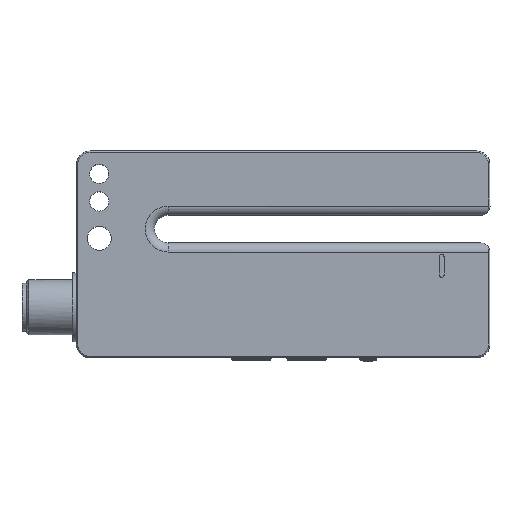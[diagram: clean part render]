
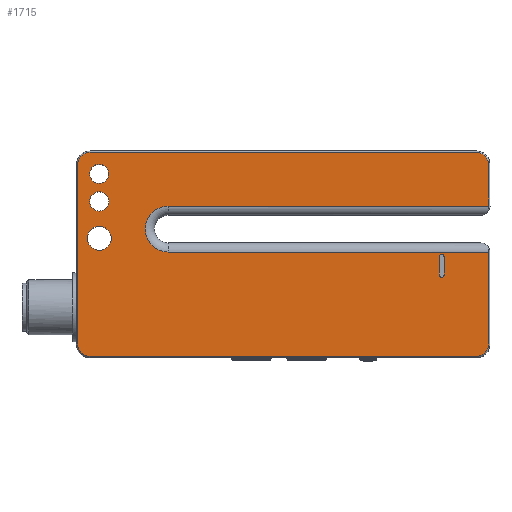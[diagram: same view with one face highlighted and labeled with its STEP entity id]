
A CAD part, top view. The second image highlights one B-rep face of the part: STEP entity #1715.
In plain terms, the highlighted planar face has unit normal (0, 0, 1).
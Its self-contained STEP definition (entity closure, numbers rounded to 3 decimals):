
#1715 = ADVANCED_FACE( '', ( #3573, #3574, #3575, #3576, #3577 ), #3578, .T. );
#3573 = FACE_BOUND( '', #5704, .T. );
#3574 = FACE_BOUND( '', #5705, .T. );
#3575 = FACE_BOUND( '', #5706, .T. );
#3576 = FACE_OUTER_BOUND( '', #5707, .T. );
#3577 = FACE_BOUND( '', #5708, .T. );
#3578 = PLANE( '', #5709 );
#5704 = EDGE_LOOP( '', ( #10418 ) );
#5705 = EDGE_LOOP( '', ( #10419 ) );
#5706 = EDGE_LOOP( '', ( #10420 ) );
#5707 = EDGE_LOOP( '', ( #10421, #10422, #10423, #10424, #10425, #10426, #10427, #10428, #10429, #10430, #10431, #10432 ) );
#5708 = EDGE_LOOP( '', ( #10433, #10434, #10435, #10436 ) );
#5709 = AXIS2_PLACEMENT_3D( '', #10437, #10438, #10439 );
#10418 = ORIENTED_EDGE( '', *, *, #11843, .T. );
#10419 = ORIENTED_EDGE( '', *, *, #11901, .T. );
#10420 = ORIENTED_EDGE( '', *, *, #12594, .T. );
#10421 = ORIENTED_EDGE( '', *, *, #12604, .F. );
#10422 = ORIENTED_EDGE( '', *, *, #12082, .F. );
#10423 = ORIENTED_EDGE( '', *, *, #12363, .F. );
#10424 = ORIENTED_EDGE( '', *, *, #11402, .F. );
#10425 = ORIENTED_EDGE( '', *, *, #12164, .F. );
#10426 = ORIENTED_EDGE( '', *, *, #11952, .F. );
#10427 = ORIENTED_EDGE( '', *, *, #12416, .F. );
#10428 = ORIENTED_EDGE( '', *, *, #10806, .F. );
#10429 = ORIENTED_EDGE( '', *, *, #12233, .F. );
#10430 = ORIENTED_EDGE( '', *, *, #12390, .F. );
#10431 = ORIENTED_EDGE( '', *, *, #11392, .F. );
#10432 = ORIENTED_EDGE( '', *, *, #11899, .F. );
#10433 = ORIENTED_EDGE( '', *, *, #10927, .T. );
#10434 = ORIENTED_EDGE( '', *, *, #11987, .T. );
#10435 = ORIENTED_EDGE( '', *, *, #11451, .T. );
#10436 = ORIENTED_EDGE( '', *, *, #12248, .T. );
#10437 = CARTESIAN_POINT( '', ( -32.214, -3.613, 9. ) );
#10438 = DIRECTION( '', ( 0., 0., 1. ) );
#10439 = DIRECTION( '', ( 1., 0., 0. ) );
#10806 = EDGE_CURVE( '', #12751, #12746, #12753, .T. );
#10927 = EDGE_CURVE( '', #12968, #12969, #12970, .T. );
#11392 = EDGE_CURVE( '', #13743, #13745, #13746, .T. );
#11402 = EDGE_CURVE( '', #13760, #13755, #13762, .T. );
#11451 = EDGE_CURVE( '', #13837, #13838, #13839, .T. );
#11843 = EDGE_CURVE( '', #14416, #14416, #14417, .F. );
#11899 = EDGE_CURVE( '', #14490, #13743, #14492, .T. );
#11901 = EDGE_CURVE( '', #14494, #14494, #14495, .F. );
#11952 = EDGE_CURVE( '', #14559, #14557, #14561, .T. );
#11987 = EDGE_CURVE( '', #12969, #13837, #14607, .T. );
#12082 = EDGE_CURVE( '', #14735, #14733, #14737, .T. );
#12164 = EDGE_CURVE( '', #14557, #13760, #14849, .T. );
#12233 = EDGE_CURVE( '', #14935, #12751, #14937, .T. );
#12248 = EDGE_CURVE( '', #13838, #12968, #14955, .T. );
#12363 = EDGE_CURVE( '', #13755, #14735, #15086, .T. );
#12390 = EDGE_CURVE( '', #13745, #14935, #15117, .F. );
#12416 = EDGE_CURVE( '', #12746, #14559, #15146, .T. );
#12594 = EDGE_CURVE( '', #15341, #15341, #15342, .F. );
#12604 = EDGE_CURVE( '', #14733, #14490, #15352, .T. );
#12746 = VERTEX_POINT( '', #15525 );
#12751 = VERTEX_POINT( '', #15531 );
#12753 = CIRCLE( '', #15534, 2.7 );
#12968 = VERTEX_POINT( '', #15829 );
#12969 = VERTEX_POINT( '', #15830 );
#12970 = CIRCLE( '', #15831, 0.5 );
#13743 = VERTEX_POINT( '', #16985 );
#13745 = VERTEX_POINT( '', #16987 );
#13746 = CIRCLE( '', #16988, 5. );
#13755 = VERTEX_POINT( '', #16999 );
#13760 = VERTEX_POINT( '', #17005 );
#13762 = CIRCLE( '', #17008, 2.7 );
#13837 = VERTEX_POINT( '', #17137 );
#13838 = VERTEX_POINT( '', #17138 );
#13839 = CIRCLE( '', #17139, 0.5 );
#14416 = VERTEX_POINT( '', #18105 );
#14417 = CIRCLE( '', #18106, 2.6 );
#14490 = VERTEX_POINT( '', #18221 );
#14492 = LINE( '', #18223, #18224 );
#14494 = VERTEX_POINT( '', #18226 );
#14495 = CIRCLE( '', #18227, 2.1 );
#14557 = VERTEX_POINT( '', #18337 );
#14559 = VERTEX_POINT( '', #18340 );
#14561 = CIRCLE( '', #18343, 2.7 );
#14607 = LINE( '', #18408, #18409 );
#14733 = VERTEX_POINT( '', #18586 );
#14735 = VERTEX_POINT( '', #18589 );
#14737 = CIRCLE( '', #18592, 2.7 );
#14849 = LINE( '', #18777, #18778 );
#14935 = VERTEX_POINT( '', #18907 );
#14937 = LINE( '', #18909, #18910 );
#14955 = LINE( '', #18932, #18933 );
#15086 = LINE( '', #19151, #19152 );
#15117 = LINE( '', #19195, #19196 );
#15146 = LINE( '', #19248, #19249 );
#15341 = VERTEX_POINT( '', #19497 );
#15342 = CIRCLE( '', #19498, 2.067 );
#15352 = LINE( '', #19511, #19512 );
#15525 = CARTESIAN_POINT( '', ( 7.5, -27.7, 9. ) );
#15531 = CARTESIAN_POINT( '', ( 10.2, -25., 9. ) );
#15534 = AXIS2_PLACEMENT_3D( '', #19627, #19628, #19629 );
#15829 = CARTESIAN_POINT( '', ( 0.5, -10., 9. ) );
#15830 = CARTESIAN_POINT( '', ( -0.5, -10., 9. ) );
#15831 = AXIS2_PLACEMENT_3D( '', #19778, #19779, #19780 );
#16985 = CARTESIAN_POINT( '', ( -59.5, 5., 9. ) );
#16987 = CARTESIAN_POINT( '', ( -59.5, -5., 9. ) );
#16988 = AXIS2_PLACEMENT_3D( '', #20368, #20369, #20370 );
#16999 = CARTESIAN_POINT( '', ( -76.5, 16.7, 9. ) );
#17005 = CARTESIAN_POINT( '', ( -79.2, 14., 9. ) );
#17008 = AXIS2_PLACEMENT_3D( '', #20384, #20385, #20386 );
#17137 = CARTESIAN_POINT( '', ( -0.5, -6., 9. ) );
#17138 = CARTESIAN_POINT( '', ( 0.5, -6., 9. ) );
#17139 = AXIS2_PLACEMENT_3D( '', #20440, #20441, #20442 );
#18105 = CARTESIAN_POINT( '', ( -74.5, -4.6, 9. ) );
#18106 = AXIS2_PLACEMENT_3D( '', #20896, #20897, #20898 );
#18221 = CARTESIAN_POINT( '', ( 10.2, 5., 9. ) );
#18223 = CARTESIAN_POINT( '', ( -32.214, 5., 9. ) );
#18224 = VECTOR( '', #20956, 1000. );
#18226 = CARTESIAN_POINT( '', ( -74.5, 3.9, 9. ) );
#18227 = AXIS2_PLACEMENT_3D( '', #20957, #20958, #20959 );
#18337 = CARTESIAN_POINT( '', ( -79.2, -25., 9. ) );
#18340 = CARTESIAN_POINT( '', ( -76.5, -27.7, 9. ) );
#18343 = AXIS2_PLACEMENT_3D( '', #21006, #21007, #21008 );
#18408 = CARTESIAN_POINT( '', ( -0.5, -6.806, 9. ) );
#18409 = VECTOR( '', #21049, 1000. );
#18586 = CARTESIAN_POINT( '', ( 10.2, 14., 9. ) );
#18589 = CARTESIAN_POINT( '', ( 7.5, 16.7, 9. ) );
#18592 = AXIS2_PLACEMENT_3D( '', #21139, #21140, #21141 );
#18777 = CARTESIAN_POINT( '', ( -79.2, 6.694, 9. ) );
#18778 = VECTOR( '', #21235, 1000. );
#18907 = CARTESIAN_POINT( '', ( 10.2, -5., 9. ) );
#18909 = CARTESIAN_POINT( '', ( 10.2, -0.306, 9. ) );
#18910 = VECTOR( '', #21294, 1000. );
#18932 = CARTESIAN_POINT( '', ( 0.5, -3.613, 9. ) );
#18933 = VECTOR( '', #21311, 1000. );
#19151 = CARTESIAN_POINT( '', ( -10.857, 16.7, 9. ) );
#19152 = VECTOR( '', #21416, 1000. );
#19195 = CARTESIAN_POINT( '', ( 10.5, -5., 9. ) );
#19196 = VECTOR( '', #21441, 1000. );
#19248 = CARTESIAN_POINT( '', ( -55.857, -27.7, 9. ) );
#19249 = VECTOR( '', #21453, 1000. );
#19497 = CARTESIAN_POINT( '', ( -74.5, 9.933, 9. ) );
#19498 = AXIS2_PLACEMENT_3D( '', #21590, #21591, #21592 );
#19511 = CARTESIAN_POINT( '', ( 10.2, -0.306, 9. ) );
#19512 = VECTOR( '', #21595, 1000. );
#19627 = CARTESIAN_POINT( '', ( 7.5, -25., 9. ) );
#19628 = DIRECTION( '', ( 0., 0., -1. ) );
#19629 = DIRECTION( '', ( 0.707, -0.707, 0. ) );
#19778 = CARTESIAN_POINT( '', ( 0., -10., 9. ) );
#19779 = DIRECTION( '', ( 0., 0., -1. ) );
#19780 = DIRECTION( '', ( 0., -1., 0. ) );
#20368 = CARTESIAN_POINT( '', ( -59.5, 0., 9. ) );
#20369 = DIRECTION( '', ( 0., 0., 1. ) );
#20370 = DIRECTION( '', ( 0., -1., 0. ) );
#20384 = CARTESIAN_POINT( '', ( -76.5, 14., 9. ) );
#20385 = DIRECTION( '', ( 0., 0., -1. ) );
#20386 = DIRECTION( '', ( -0.707, 0.707, 0. ) );
#20440 = CARTESIAN_POINT( '', ( 0., -6., 9. ) );
#20441 = DIRECTION( '', ( 0., 0., -1. ) );
#20442 = DIRECTION( '', ( 1., 0., 0. ) );
#20896 = CARTESIAN_POINT( '', ( -74.5, -2., 9. ) );
#20897 = DIRECTION( '', ( 0., 0., 1. ) );
#20898 = DIRECTION( '', ( 0., -1., 0. ) );
#20956 = DIRECTION( '', ( -1., 0., 0. ) );
#20957 = CARTESIAN_POINT( '', ( -74.5, 6., 9. ) );
#20958 = DIRECTION( '', ( 0., 0., 1. ) );
#20959 = DIRECTION( '', ( 0., -1., 0. ) );
#21006 = CARTESIAN_POINT( '', ( -76.5, -25., 9. ) );
#21007 = DIRECTION( '', ( 0., 0., -1. ) );
#21008 = DIRECTION( '', ( -0.707, -0.707, 0. ) );
#21049 = DIRECTION( '', ( 0., 1., 0. ) );
#21139 = CARTESIAN_POINT( '', ( 7.5, 14., 9. ) );
#21140 = DIRECTION( '', ( 0., 0., -1. ) );
#21141 = DIRECTION( '', ( 0.707, 0.707, 0. ) );
#21235 = DIRECTION( '', ( 0., 1., 0. ) );
#21294 = DIRECTION( '', ( 0., -1., 0. ) );
#21311 = DIRECTION( '', ( 0., -1., 0. ) );
#21416 = DIRECTION( '', ( 1., 0., 0. ) );
#21441 = DIRECTION( '', ( -1., 0., 0. ) );
#21453 = DIRECTION( '', ( -1., 0., 0. ) );
#21590 = CARTESIAN_POINT( '', ( -74.5, 12., 9. ) );
#21591 = DIRECTION( '', ( 0., 0., 1. ) );
#21592 = DIRECTION( '', ( 0., -1., 0. ) );
#21595 = DIRECTION( '', ( 0., -1., 0. ) );
